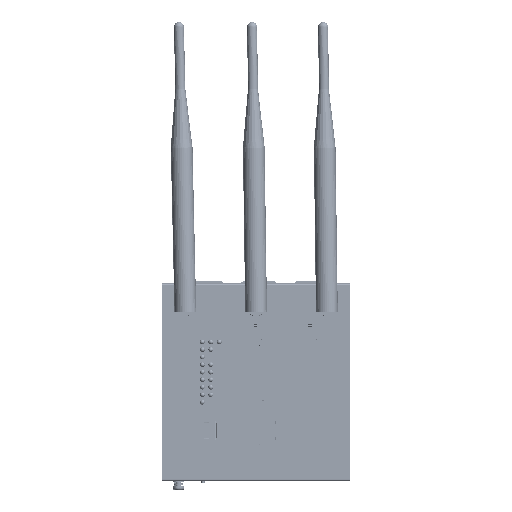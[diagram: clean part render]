
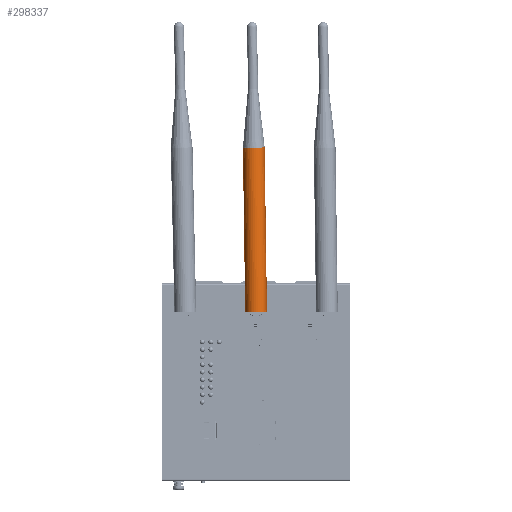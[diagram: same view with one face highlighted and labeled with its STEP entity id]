
A CAD part, top view. The second image highlights one B-rep face of the part: STEP entity #298337.
In plain terms, the highlighted cylindrical face has radius 6.5 mm (diameter 13 mm), a partial arc.
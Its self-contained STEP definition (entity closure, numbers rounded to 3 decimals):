
#297902=DIRECTION('',(0.,-1.,0.));
#297903=VECTOR('',#297902,98.);
#297904=CARTESIAN_POINT('',(6.5,94.,-23.));
#297905=LINE('',#297904,#297903);
#297932=CARTESIAN_POINT('',(0.,-4.,-23.));
#297933=DIRECTION('',(0.,-1.,0.));
#297934=DIRECTION('',(-1.,0.,0.));
#297935=AXIS2_PLACEMENT_3D('',#297932,#297933,#297934);
#297942=CARTESIAN_POINT('',(0.,94.,-23.));
#297943=DIRECTION('',(0.,-1.,0.));
#297944=DIRECTION('',(-1.,0.,0.));
#297945=AXIS2_PLACEMENT_3D('',#297942,#297943,#297944);
#297947=DIRECTION('',(0.,-1.,0.));
#297948=VECTOR('',#297947,98.);
#297949=CARTESIAN_POINT('',(-6.5,94.,-23.));
#297950=LINE('',#297949,#297948);
#298060=CARTESIAN_POINT('',(-6.5,94.,-23.));
#298061=CARTESIAN_POINT('',(6.5,94.,-23.));
#298062=VERTEX_POINT('',#298060);
#298063=VERTEX_POINT('',#298061);
#298064=CARTESIAN_POINT('',(-6.5,-4.,-23.));
#298065=CARTESIAN_POINT('',(6.5,-4.,-23.));
#298066=VERTEX_POINT('',#298064);
#298067=VERTEX_POINT('',#298065);
#298325=CARTESIAN_POINT('',(0.,45.,-23.));
#298326=DIRECTION('',(0.,-1.,0.));
#298327=DIRECTION('',(-1.,0.,0.));
#298328=AXIS2_PLACEMENT_3D('',#298325,#298326,#298327);
#298329=CYLINDRICAL_SURFACE('',#298328,6.5);
#298331=ORIENTED_EDGE('',*,*,#298330,.F.);
#298332=ORIENTED_EDGE('',*,*,#298273,.T.);
#298333=ORIENTED_EDGE('',*,*,#298317,.T.);
#298334=ORIENTED_EDGE('',*,*,#298277,.F.);
#298335=EDGE_LOOP('',(#298331,#298332,#298333,#298334));
#298336=FACE_OUTER_BOUND('',#298335,.F.);
#297936=CIRCLE('',#297935,6.5);
#297946=CIRCLE('',#297945,6.5);
#298273=EDGE_CURVE('',#298062,#298066,#297950,.T.);
#298277=EDGE_CURVE('',#298063,#298067,#297905,.T.);
#298317=EDGE_CURVE('',#298066,#298067,#297936,.T.);
#298330=EDGE_CURVE('',#298062,#298063,#297946,.T.);
#298337=ADVANCED_FACE('',(#298336),#298329,.T.);
